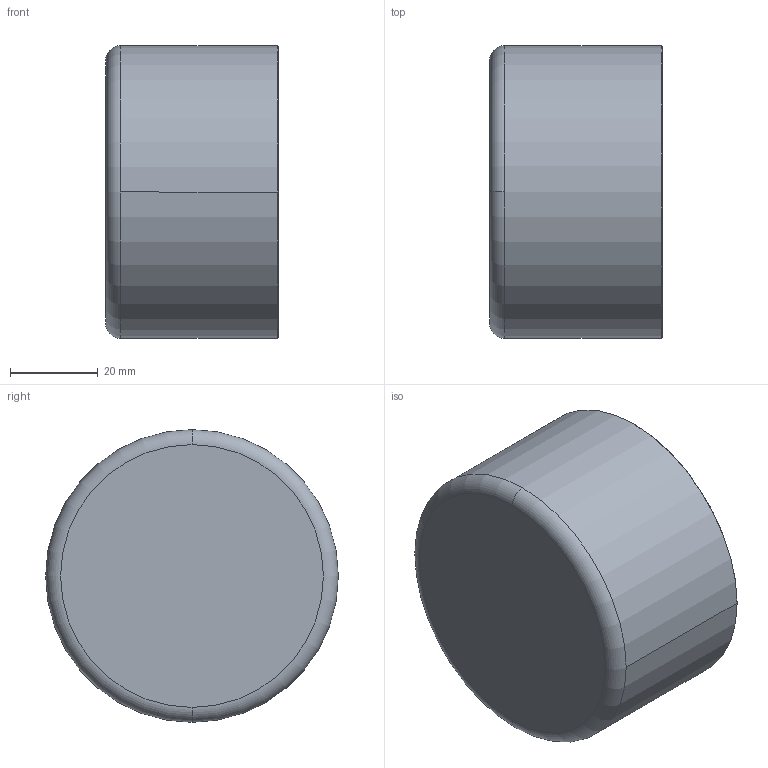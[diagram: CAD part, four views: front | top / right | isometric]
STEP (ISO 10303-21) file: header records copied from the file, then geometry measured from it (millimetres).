
FILE_DESCRIPTION((''),'2;1');
FILE_NAME('C:\sanha_work\5130\f\530164.stp','2005-10-21T18:20:04',('Kris'),(''),'Autodesk Inventor 8','Autodesk Inventor 8','');
FILE_SCHEMA(('AUTOMOTIVE_DESIGN { 1 0 10303 214 1 1 1 1 }'));
Length unit declared in the file: millimetre
Products named in the file (1): 530164
Bounding box: 39.4 x 66.8 x 66.8 mm (x, y, z)
Volume: 15490.2 mm3; surface area: 22384.1 mm2
Topology: 1 solids, 1 shells, 15 faces, 34 edges, 22 vertices
Faces by surface type: torus 4, cylinder 4, cone 4, plane 3
Entity records: 461 total; most frequent: DIRECTION 92, CARTESIAN_POINT 72, ORIENTED_EDGE 68, AXIS2_PLACEMENT_3D 42, EDGE_CURVE 34, CIRCLE 26, VERTEX_POINT 22, EDGE_LOOP 16
